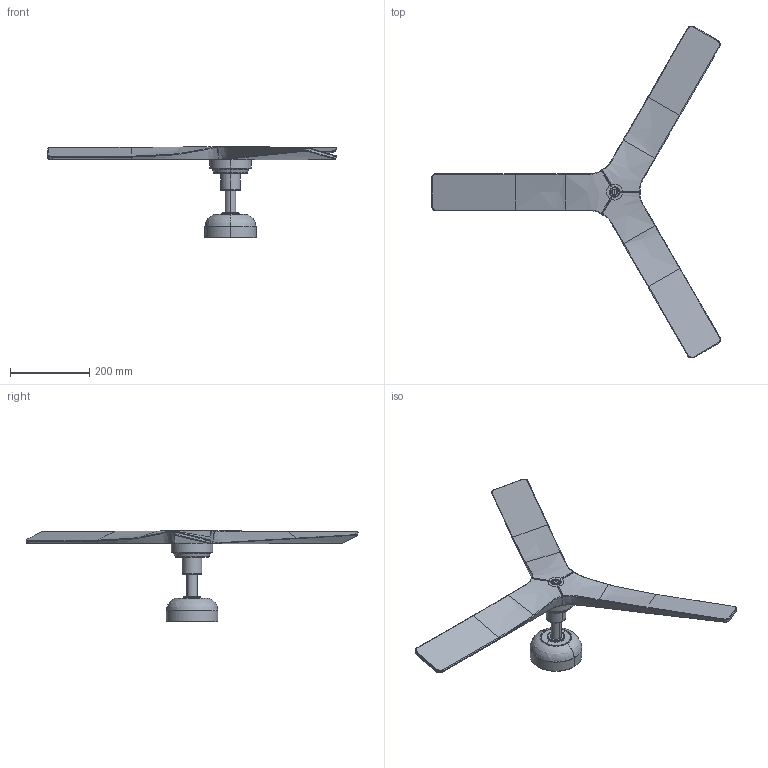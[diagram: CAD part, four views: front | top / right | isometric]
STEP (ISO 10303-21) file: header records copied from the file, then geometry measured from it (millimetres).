
FILE_DESCRIPTION(/* description */ (''),/* implementation_level */ '2;1');
FILE_NAME(/* name */ '34278.step',/* time_stamp */ '2024-04-30T12:19:34+02:00',/* author */ ('RenataManzini'),/* organization */ (''),/* preprocessor_version */ 'ST-DEVELOPER v20',/* originating_system */ 'AutoCAD Mechanical',/* authorisation */ '');
FILE_SCHEMA (('AUTOMOTIVE_DESIGN { 1 0 10303 214 3 1 1 }'));
Length unit declared in the file: millimetre
Products named in the file (2): Product; FC925YP___
Assembly tree (3 placements, depth 2):
  Product
    FC925YP___  x3
Bounding box: 730.24 x 839.11 x 231.64 mm (x, y, z)
Volume: 2450188.1 mm3; surface area: 456868 mm2
Topology: 7 solids, 7 shells, 377 faces, 952 edges, 599 vertices
Faces by surface type: plane 144, cylinder 113, bspline 83, torus 28, cone 9
Entity records: 16141 total; most frequent: CARTESIAN_POINT 10109, ORIENTED_EDGE 1318, DIRECTION 1124, EDGE_CURVE 659, VERTEX_POINT 414, AXIS2_PLACEMENT_3D 405, LINE 314, VECTOR 314
